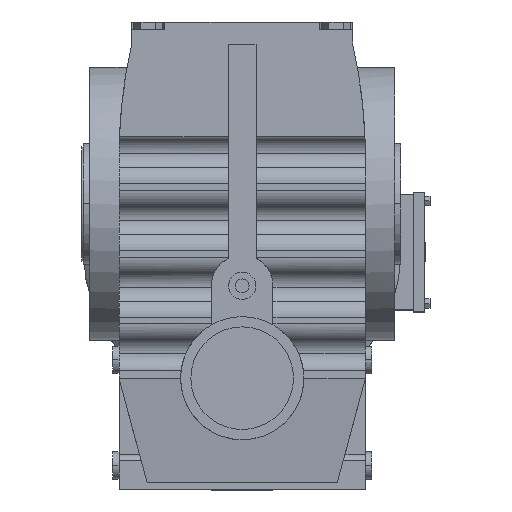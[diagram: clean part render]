
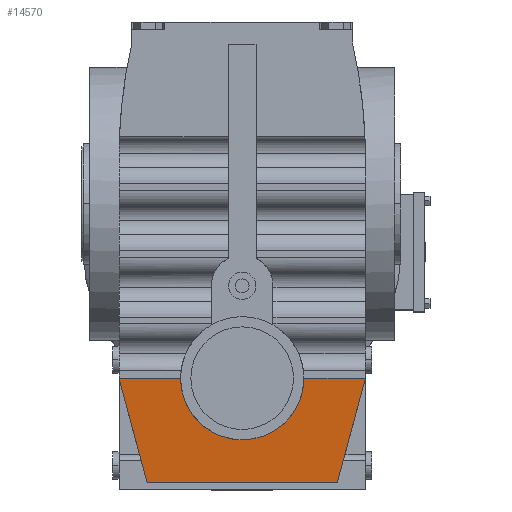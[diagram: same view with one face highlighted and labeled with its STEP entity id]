
A CAD part, top view. The second image highlights one B-rep face of the part: STEP entity #14570.
In plain terms, the highlighted planar face has unit normal (0, -0.108, 0.994).
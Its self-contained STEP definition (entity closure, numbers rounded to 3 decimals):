
#4412 = VERTEX_POINT('',#4413);
#4413 = CARTESIAN_POINT('',(-97.,-100.,320.375));
#4427 = PLANE('',#4428);
#4428 = AXIS2_PLACEMENT_3D('',#4429,#4430,#4431);
#4429 = CARTESIAN_POINT('',(-97.,-100.,-3.));
#4430 = DIRECTION('',(-0.966,-0.259,0.));
#4431 = DIRECTION('',(0.259,-0.966,0.));
#4455 = PLANE('',#4456);
#4456 = AXIS2_PLACEMENT_3D('',#4457,#4458,#4459);
#4457 = CARTESIAN_POINT('',(97.,180.5,320.375));
#4458 = DIRECTION('',(0.,0.,-1.));
#4459 = DIRECTION('',(0.,1.,0.));
#8478 = VERTEX_POINT('',#8479);
#8479 = CARTESIAN_POINT('',(-48.5,-100.,320.375));
#8525 = EDGE_CURVE('',#8478,#4412,#8526,.T.);
#8526 = SURFACE_CURVE('',#8527,(#8531,#8538),.PCURVE_S1.);
#8527 = LINE('',#8528,#8529);
#8528 = CARTESIAN_POINT('',(97.,-100.,320.375));
#8529 = VECTOR('',#8530,1.);
#8530 = DIRECTION('',(-1.,0.,0.));
#8531 = PCURVE('',#4455,#8532);
#8532 = DEFINITIONAL_REPRESENTATION('',(#8533),#8537);
#8533 = LINE('',#8534,#8535);
#8534 = CARTESIAN_POINT('',(-280.5,0.));
#8535 = VECTOR('',#8536,1.);
#8536 = DIRECTION('',(0.,-1.));
#8537 = ( GEOMETRIC_REPRESENTATION_CONTEXT(2) 
PARAMETRIC_REPRESENTATION_CONTEXT() REPRESENTATION_CONTEXT('2D SPACE',''
  ) );
#8538 = PCURVE('',#8539,#8544);
#8539 = PLANE('',#8540);
#8540 = AXIS2_PLACEMENT_3D('',#8541,#8542,#8543);
#8541 = CARTESIAN_POINT('',(97.,-182.5,311.375));
#8542 = DIRECTION('',(0.,0.108,-0.994));
#8543 = DIRECTION('',(0.,0.994,0.108));
#8544 = DEFINITIONAL_REPRESENTATION('',(#8545),#8549);
#8545 = LINE('',#8546,#8547);
#8546 = CARTESIAN_POINT('',(82.989,0.));
#8547 = VECTOR('',#8548,1.);
#8548 = DIRECTION('',(0.,-1.));
#8549 = ( GEOMETRIC_REPRESENTATION_CONTEXT(2) 
PARAMETRIC_REPRESENTATION_CONTEXT() REPRESENTATION_CONTEXT('2D SPACE',''
  ) );
#9321 = VERTEX_POINT('',#9322);
#9322 = CARTESIAN_POINT('',(-74.894,-182.5,311.375));
#9336 = PLANE('',#9337);
#9337 = AXIS2_PLACEMENT_3D('',#9338,#9339,#9340);
#9338 = CARTESIAN_POINT('',(97.,-182.5,49.375));
#9339 = DIRECTION('',(0.,1.,0.));
#9340 = DIRECTION('',(0.,0.,1.));
#9348 = EDGE_CURVE('',#9321,#4412,#9349,.T.);
#9349 = SURFACE_CURVE('',#9350,(#9354,#9361),.PCURVE_S1.);
#9350 = LINE('',#9351,#9352);
#9351 = CARTESIAN_POINT('',(-63.506,-225.002,
    306.738));
#9352 = VECTOR('',#9353,1.);
#9353 = DIRECTION('',(-0.257,0.961,0.105));
#9354 = PCURVE('',#4427,#9355);
#9355 = DEFINITIONAL_REPRESENTATION('',(#9356),#9360);
#9356 = LINE('',#9357,#9358);
#9357 = CARTESIAN_POINT('',(129.411,309.738));
#9358 = VECTOR('',#9359,1.);
#9359 = DIRECTION('',(-0.994,0.105));
#9360 = ( GEOMETRIC_REPRESENTATION_CONTEXT(2) 
PARAMETRIC_REPRESENTATION_CONTEXT() REPRESENTATION_CONTEXT('2D SPACE',''
  ) );
#9361 = PCURVE('',#8539,#9362);
#9362 = DEFINITIONAL_REPRESENTATION('',(#9363),#9367);
#9363 = LINE('',#9364,#9365);
#9364 = CARTESIAN_POINT('',(-42.754,-160.506));
#9365 = VECTOR('',#9366,1.);
#9366 = DIRECTION('',(0.966,-0.257));
#9367 = ( GEOMETRIC_REPRESENTATION_CONTEXT(2) 
PARAMETRIC_REPRESENTATION_CONTEXT() REPRESENTATION_CONTEXT('2D SPACE',''
  ) );
#9745 = PLANE('',#9746);
#9746 = AXIS2_PLACEMENT_3D('',#9747,#9748,#9749);
#9747 = CARTESIAN_POINT('',(97.,-100.,-3.));
#9748 = DIRECTION('',(0.966,-0.259,0.));
#9749 = DIRECTION('',(0.259,0.966,0.));
#12932 = VERTEX_POINT('',#12933);
#12933 = CARTESIAN_POINT('',(48.5,-100.,320.375));
#12946 = CYLINDRICAL_SURFACE('',#12947,48.5);
#12947 = AXIS2_PLACEMENT_3D('',#12948,#12949,#12950);
#12948 = CARTESIAN_POINT('',(0.,-100.,324.375));
#12949 = DIRECTION('',(0.,0.,-1.));
#12950 = DIRECTION('',(-1.,0.,0.));
#12973 = PLANE('',#12974);
#12974 = AXIS2_PLACEMENT_3D('',#12975,#12976,#12977);
#12975 = CARTESIAN_POINT('',(97.,180.5,320.375));
#12976 = DIRECTION('',(0.,0.,-1.));
#12977 = DIRECTION('',(0.,1.,0.));
#14273 = VERTEX_POINT('',#14274);
#14274 = CARTESIAN_POINT('',(97.,-100.,320.375));
#14570 = ADVANCED_FACE('',(#14571),#8539,.F.);
#14571 = FACE_BOUND('',#14572,.T.);
#14572 = EDGE_LOOP('',(#14573,#14618,#14619,#14620,#14643,#14664));
#14573 = ORIENTED_EDGE('',*,*,#14574,.F.);
#14574 = EDGE_CURVE('',#8478,#12932,#14575,.T.);
#14575 = SURFACE_CURVE('',#14576,(#14581,#14589),.PCURVE_S1.);
#14576 = ( BOUNDED_CURVE() B_SPLINE_CURVE(3,(#14577,#14578,#14579,#14580
),.UNSPECIFIED.,.F.,.F.) B_SPLINE_CURVE_WITH_KNOTS((4,4),(4.712
,7.854),.PIECEWISE_BEZIER_KNOTS.) CURVE() 
GEOMETRIC_REPRESENTATION_ITEM() RATIONAL_B_SPLINE_CURVE((1.,
0.333,0.333,1.)) REPRESENTATION_ITEM('') );
#14577 = CARTESIAN_POINT('',(-48.5,-100.,320.375));
#14578 = CARTESIAN_POINT('',(-48.5,-197.,309.793));
#14579 = CARTESIAN_POINT('',(48.5,-197.,309.793));
#14580 = CARTESIAN_POINT('',(48.5,-100.,320.375));
#14581 = PCURVE('',#8539,#14582);
#14582 = DEFINITIONAL_REPRESENTATION('',(#14583),#14588);
#14583 = ( BOUNDED_CURVE() B_SPLINE_CURVE(3,(#14584,#14585,#14586,#14587
),.UNSPECIFIED.,.F.,.F.) B_SPLINE_CURVE_WITH_KNOTS((4,4),(4.712
,7.854),.PIECEWISE_BEZIER_KNOTS.) CURVE() 
GEOMETRIC_REPRESENTATION_ITEM() RATIONAL_B_SPLINE_CURVE((1.,
0.333,0.333,1.)) REPRESENTATION_ITEM('') );
#14584 = CARTESIAN_POINT('',(82.989,-145.5));
#14585 = CARTESIAN_POINT('',(-14.586,-145.5));
#14586 = CARTESIAN_POINT('',(-14.586,-48.5));
#14587 = CARTESIAN_POINT('',(82.989,-48.5));
#14588 = ( GEOMETRIC_REPRESENTATION_CONTEXT(2) 
PARAMETRIC_REPRESENTATION_CONTEXT() REPRESENTATION_CONTEXT('2D SPACE',''
  ) );
#14589 = PCURVE('',#12946,#14590);
#14590 = DEFINITIONAL_REPRESENTATION('',(#14591),#14617);
#14591 = B_SPLINE_CURVE_WITH_KNOTS('',3,(#14592,#14593,#14594,#14595,
    #14596,#14597,#14598,#14599,#14600,#14601,#14602,#14603,#14604,
    #14605,#14606,#14607,#14608,#14609,#14610,#14611,#14612,#14613,
    #14614,#14615,#14616),.UNSPECIFIED.,.F.,.F.,(4,1,1,1,1,1,1,1,1,1,1,1
    ,1,1,1,1,1,1,1,1,1,1,4),(4.712,4.855,
    4.998,5.141,5.284,5.426,
    5.569,5.712,5.855,5.998,
    6.14,6.283,6.426,6.569,
    6.712,6.854,6.997,7.14,
    7.283,7.426,7.568,7.711,
    7.854),.QUASI_UNIFORM_KNOTS.);
#14592 = CARTESIAN_POINT('',(6.283,4.));
#14593 = CARTESIAN_POINT('',(6.253,4.16));
#14594 = CARTESIAN_POINT('',(6.19,4.496));
#14595 = CARTESIAN_POINT('',(6.085,5.041));
#14596 = CARTESIAN_POINT('',(5.972,5.625));
#14597 = CARTESIAN_POINT('',(5.848,6.238));
#14598 = CARTESIAN_POINT('',(5.713,6.866));
#14599 = CARTESIAN_POINT('',(5.567,7.485));
#14600 = CARTESIAN_POINT('',(5.412,8.067));
#14601 = CARTESIAN_POINT('',(5.246,8.577));
#14602 = CARTESIAN_POINT('',(5.073,8.976));
#14603 = CARTESIAN_POINT('',(4.894,9.232));
#14604 = CARTESIAN_POINT('',(4.712,9.32));
#14605 = CARTESIAN_POINT('',(4.531,9.232));
#14606 = CARTESIAN_POINT('',(4.352,8.976));
#14607 = CARTESIAN_POINT('',(4.179,8.577));
#14608 = CARTESIAN_POINT('',(4.013,8.067));
#14609 = CARTESIAN_POINT('',(3.857,7.485));
#14610 = CARTESIAN_POINT('',(3.712,6.866));
#14611 = CARTESIAN_POINT('',(3.577,6.238));
#14612 = CARTESIAN_POINT('',(3.453,5.625));
#14613 = CARTESIAN_POINT('',(3.339,5.041));
#14614 = CARTESIAN_POINT('',(3.235,4.496));
#14615 = CARTESIAN_POINT('',(3.172,4.16));
#14616 = CARTESIAN_POINT('',(3.142,4.));
#14617 = ( GEOMETRIC_REPRESENTATION_CONTEXT(2) 
PARAMETRIC_REPRESENTATION_CONTEXT() REPRESENTATION_CONTEXT('2D SPACE',''
  ) );
#14618 = ORIENTED_EDGE('',*,*,#8525,.T.);
#14619 = ORIENTED_EDGE('',*,*,#9348,.F.);
#14620 = ORIENTED_EDGE('',*,*,#14621,.F.);
#14621 = EDGE_CURVE('',#14622,#9321,#14624,.T.);
#14622 = VERTEX_POINT('',#14623);
#14623 = CARTESIAN_POINT('',(74.894,-182.5,311.375));
#14624 = SURFACE_CURVE('',#14625,(#14629,#14636),.PCURVE_S1.);
#14625 = LINE('',#14626,#14627);
#14626 = CARTESIAN_POINT('',(97.,-182.5,311.375));
#14627 = VECTOR('',#14628,1.);
#14628 = DIRECTION('',(-1.,0.,0.));
#14629 = PCURVE('',#8539,#14630);
#14630 = DEFINITIONAL_REPRESENTATION('',(#14631),#14635);
#14631 = LINE('',#14632,#14633);
#14632 = CARTESIAN_POINT('',(0.,0.));
#14633 = VECTOR('',#14634,1.);
#14634 = DIRECTION('',(0.,-1.));
#14635 = ( GEOMETRIC_REPRESENTATION_CONTEXT(2) 
PARAMETRIC_REPRESENTATION_CONTEXT() REPRESENTATION_CONTEXT('2D SPACE',''
  ) );
#14636 = PCURVE('',#9336,#14637);
#14637 = DEFINITIONAL_REPRESENTATION('',(#14638),#14642);
#14638 = LINE('',#14639,#14640);
#14639 = CARTESIAN_POINT('',(262.,0.));
#14640 = VECTOR('',#14641,1.);
#14641 = DIRECTION('',(0.,-1.));
#14642 = ( GEOMETRIC_REPRESENTATION_CONTEXT(2) 
PARAMETRIC_REPRESENTATION_CONTEXT() REPRESENTATION_CONTEXT('2D SPACE',''
  ) );
#14643 = ORIENTED_EDGE('',*,*,#14644,.F.);
#14644 = EDGE_CURVE('',#14273,#14622,#14645,.T.);
#14645 = SURFACE_CURVE('',#14646,(#14650,#14657),.PCURVE_S1.);
#14646 = LINE('',#14647,#14648);
#14647 = CARTESIAN_POINT('',(76.359,-177.034,
    311.971));
#14648 = VECTOR('',#14649,1.);
#14649 = DIRECTION('',(-0.257,-0.961,-0.105)
  );
#14650 = PCURVE('',#8539,#14651);
#14651 = DEFINITIONAL_REPRESENTATION('',(#14652),#14656);
#14652 = LINE('',#14653,#14654);
#14653 = CARTESIAN_POINT('',(5.498,-20.641));
#14654 = VECTOR('',#14655,1.);
#14655 = DIRECTION('',(-0.966,-0.257));
#14656 = ( GEOMETRIC_REPRESENTATION_CONTEXT(2) 
PARAMETRIC_REPRESENTATION_CONTEXT() REPRESENTATION_CONTEXT('2D SPACE',''
  ) );
#14657 = PCURVE('',#9745,#14658);
#14658 = DEFINITIONAL_REPRESENTATION('',(#14659),#14663);
#14659 = LINE('',#14660,#14661);
#14660 = CARTESIAN_POINT('',(-79.752,314.971));
#14661 = VECTOR('',#14662,1.);
#14662 = DIRECTION('',(-0.994,-0.105));
#14663 = ( GEOMETRIC_REPRESENTATION_CONTEXT(2) 
PARAMETRIC_REPRESENTATION_CONTEXT() REPRESENTATION_CONTEXT('2D SPACE',''
  ) );
#14664 = ORIENTED_EDGE('',*,*,#14665,.T.);
#14665 = EDGE_CURVE('',#14273,#12932,#14666,.T.);
#14666 = SURFACE_CURVE('',#14667,(#14671,#14678),.PCURVE_S1.);
#14667 = LINE('',#14668,#14669);
#14668 = CARTESIAN_POINT('',(97.,-100.,320.375));
#14669 = VECTOR('',#14670,1.);
#14670 = DIRECTION('',(-1.,0.,0.));
#14671 = PCURVE('',#8539,#14672);
#14672 = DEFINITIONAL_REPRESENTATION('',(#14673),#14677);
#14673 = LINE('',#14674,#14675);
#14674 = CARTESIAN_POINT('',(82.989,0.));
#14675 = VECTOR('',#14676,1.);
#14676 = DIRECTION('',(0.,-1.));
#14677 = ( GEOMETRIC_REPRESENTATION_CONTEXT(2) 
PARAMETRIC_REPRESENTATION_CONTEXT() REPRESENTATION_CONTEXT('2D SPACE',''
  ) );
#14678 = PCURVE('',#12973,#14679);
#14679 = DEFINITIONAL_REPRESENTATION('',(#14680),#14684);
#14680 = LINE('',#14681,#14682);
#14681 = CARTESIAN_POINT('',(-280.5,0.));
#14682 = VECTOR('',#14683,1.);
#14683 = DIRECTION('',(0.,-1.));
#14684 = ( GEOMETRIC_REPRESENTATION_CONTEXT(2) 
PARAMETRIC_REPRESENTATION_CONTEXT() REPRESENTATION_CONTEXT('2D SPACE',''
  ) );
